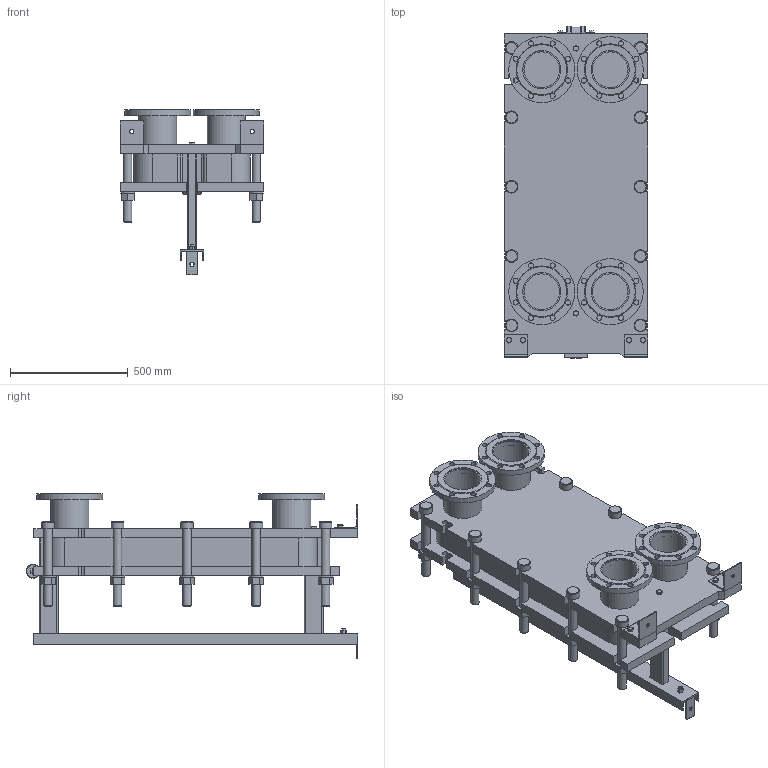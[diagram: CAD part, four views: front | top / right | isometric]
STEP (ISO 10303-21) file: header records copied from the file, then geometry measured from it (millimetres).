
FILE_DESCRIPTION(/* description */ (''),/* implementation_level */ '2;1');
FILE_NAME(/* name */ 'C:\Users\zhuro\Desktop\ENCO\TO\ЭН-041\ЭН-0,5-041-35-1.stp',/* time_stamp */ '2022-06-06T10:51:19+03:00',/* author */ ('zhuro'),/* organization */ (''),/* preprocessor_version */ 'ST-DEVELOPER v18.1',/* originating_system */ 'Autodesk Inventor 2022',/* authorisation */ '');
FILE_SCHEMA (('AUTOMOTIVE_DESIGN { 1 0 10303 214 3 1 1 }'));
Length unit declared in the file: millimetre
Products named in the file (1): ЭН-0,5-041-35-1
Bounding box: 610 x 1406.5 x 702.5 mm (x, y, z)
Volume: 143819737 mm3; surface area: 7591314.4 mm2
Topology: 52 solids, 52 shells, 711 faces, 1696 edges, 1094 vertices
Faces by surface type: plane 487, cylinder 177, cone 41, torus 6
Full cylindrical faces by diameter (mm): 8 x4, 10 x2, 16 x8, 18 x3, 22 x32, 36 x24, 50 x1, 54 x10, 60 x12, 151 x4, 161 x8, 280 x4
Entity records: 22667 total; most frequent: CARTESIAN_POINT 5230, DIRECTION 3644, ORIENTED_EDGE 3392, EDGE_CURVE 1696, AXIS2_PLACEMENT_3D 1272, LINE 1100, VECTOR 1100, VERTEX_POINT 1094
